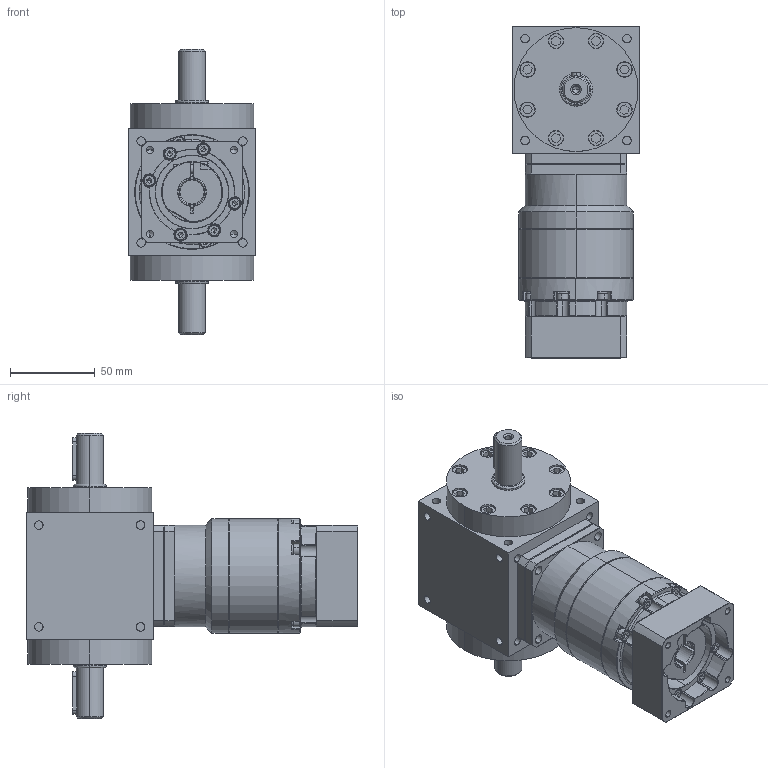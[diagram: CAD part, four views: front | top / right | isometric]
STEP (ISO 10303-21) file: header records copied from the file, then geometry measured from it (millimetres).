
FILE_DESCRIPTION (( 'STEP AP203' ), '1' );
FILE_NAME ('AT075-FL-L2 14-50-70-M5.STEP', '2024-12-19T05:46:23', ( '' ), ( '' ), 'SwSTEP 2.0', 'SolidWorks 2021', '' );
FILE_SCHEMA (( 'CONFIG_CONTROL_DESIGN' ));
Length unit declared in the file: millimetre
Products named in the file (3): AT075-FL; VRB-060-L2-S2-P1 14-50-70-M5; AT075-FL-L2 14-50-70-M5
Assembly tree (2 placements, depth 2):
  AT075-FL-L2 14-50-70-M5
    AT075-FL
    VRB-060-L2-S2-P1 14-50-70-M5
Bounding box: 75 x 195.5 x 168 mm (x, y, z)
Volume: 856912.2 mm3; surface area: 135988.1 mm2
Topology: 34 solids, 34 shells, 1500 faces, 3703 edges, 2320 vertices
Faces by surface type: plane 608, cylinder 586, cone 236, torus 54, bspline 16
Entity records: 45348 total; most frequent: CARTESIAN_POINT 9483, DIRECTION 7750, ORIENTED_EDGE 7282, EDGE_CURVE 3641, AXIS2_PLACEMENT_3D 3020, VERTEX_POINT 2320, VECTOR 1710, LINE 1710
